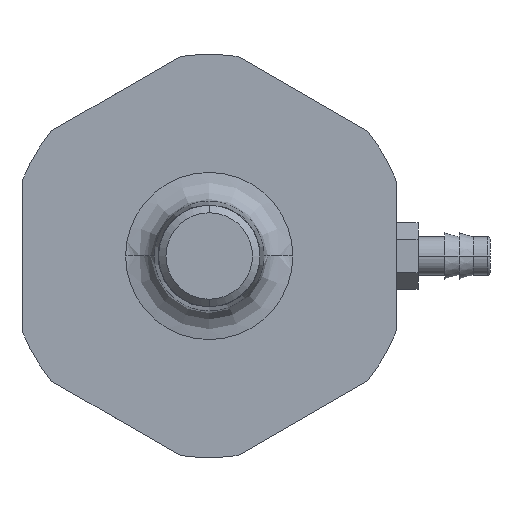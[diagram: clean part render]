
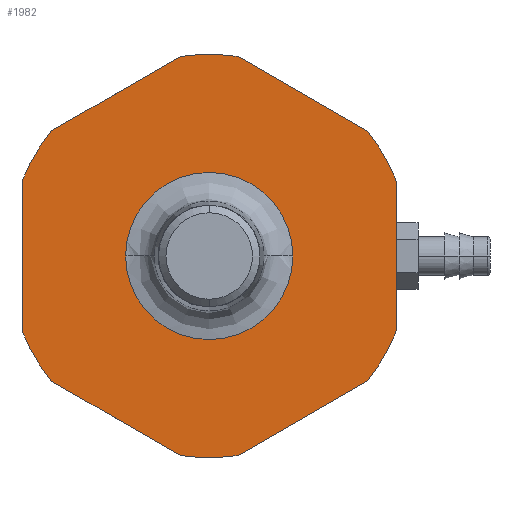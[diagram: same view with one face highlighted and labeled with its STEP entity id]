
A CAD part, left-side view. The second image highlights one B-rep face of the part: STEP entity #1982.
In plain terms, the highlighted planar face has unit normal (-1, 0, 0).
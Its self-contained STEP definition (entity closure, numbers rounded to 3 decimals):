
#1375=CARTESIAN_POINT('',(-3.375,0.363,0.));
#1376=VERTEX_POINT('',#1375);
#1386=CARTESIAN_POINT('',(-3.375,-0.363,0.));
#1387=VERTEX_POINT('',#1386);
#1388=CARTESIAN_POINT('',(-3.375,0.,0.0));
#1389=DIRECTION('',(-1.0,0.0,0.0));
#1390=DIRECTION('',(0.0,0.0,1.0));
#1391=AXIS2_PLACEMENT_3D('',#1388,#1389,#1390);
#1392=CIRCLE('',#1391,0.363);
#1393=EDGE_CURVE('',#1376,#1387,#1392,.T.);
#1460=CARTESIAN_POINT('',(-3.375,-0.687,-0.541));
#1461=VERTEX_POINT('',#1460);
#1468=CARTESIAN_POINT('',(-3.375,-0.125,-0.866));
#1469=VERTEX_POINT('',#1468);
#1470=CARTESIAN_POINT('',(-3.375,-0.687,-0.541));
#1471=DIRECTION('',(0.0,0.866,-0.5));
#1472=VECTOR('',#1471,0.65);
#1473=LINE('',#1470,#1472);
#1474=EDGE_CURVE('',#1461,#1469,#1473,.T.);
#1499=CARTESIAN_POINT('',(-3.375,-0.812,-0.325));
#1500=VERTEX_POINT('',#1499);
#1507=CARTESIAN_POINT('',(-3.375,0.,0.0));
#1508=DIRECTION('',(1.0,0.0,0.0));
#1509=DIRECTION('',(0.0,-0.866,-0.5));
#1510=AXIS2_PLACEMENT_3D('',#1507,#1508,#1509);
#1511=CIRCLE('',#1510,0.875);
#1512=EDGE_CURVE('',#1500,#1461,#1511,.T.);
#1531=CARTESIAN_POINT('',(-3.375,-0.812,0.325));
#1532=VERTEX_POINT('',#1531);
#1539=CARTESIAN_POINT('',(-3.375,-0.812,0.325));
#1540=DIRECTION('',(0.0,0.0,-1.0));
#1541=VECTOR('',#1540,0.65);
#1542=LINE('',#1539,#1541);
#1543=EDGE_CURVE('',#1532,#1500,#1542,.T.);
#1563=CARTESIAN_POINT('',(-3.375,-0.687,0.541));
#1564=VERTEX_POINT('',#1563);
#1571=CARTESIAN_POINT('',(-3.375,0.,0.0));
#1572=DIRECTION('',(1.0,0.0,0.0));
#1573=DIRECTION('',(0.0,-0.866,0.5));
#1574=AXIS2_PLACEMENT_3D('',#1571,#1572,#1573);
#1575=CIRCLE('',#1574,0.875);
#1576=EDGE_CURVE('',#1564,#1532,#1575,.T.);
#1595=CARTESIAN_POINT('',(-3.375,-0.125,0.866));
#1596=VERTEX_POINT('',#1595);
#1603=CARTESIAN_POINT('',(-3.375,-0.125,0.866));
#1604=DIRECTION('',(0.0,-0.866,-0.5));
#1605=VECTOR('',#1604,0.65);
#1606=LINE('',#1603,#1605);
#1607=EDGE_CURVE('',#1596,#1564,#1606,.T.);
#1627=CARTESIAN_POINT('',(-3.375,0.125,0.866));
#1628=VERTEX_POINT('',#1627);
#1635=CARTESIAN_POINT('',(-3.375,0.,0.));
#1636=DIRECTION('',(1.0,0.0,0.0));
#1637=DIRECTION('',(0.0,0.0,1.0));
#1638=AXIS2_PLACEMENT_3D('',#1635,#1636,#1637);
#1639=CIRCLE('',#1638,0.875);
#1640=EDGE_CURVE('',#1628,#1596,#1639,.T.);
#1659=CARTESIAN_POINT('',(-3.375,0.688,0.541));
#1660=VERTEX_POINT('',#1659);
#1667=CARTESIAN_POINT('',(-3.375,0.688,0.541));
#1668=DIRECTION('',(0.0,-0.866,0.5));
#1669=VECTOR('',#1668,0.65);
#1670=LINE('',#1667,#1669);
#1671=EDGE_CURVE('',#1660,#1628,#1670,.T.);
#1691=CARTESIAN_POINT('',(-3.375,0.813,0.325));
#1692=VERTEX_POINT('',#1691);
#1699=CARTESIAN_POINT('',(-3.375,0.,0.));
#1700=DIRECTION('',(1.0,0.0,0.0));
#1701=DIRECTION('',(0.0,0.866,0.5));
#1702=AXIS2_PLACEMENT_3D('',#1699,#1700,#1701);
#1703=CIRCLE('',#1702,0.875);
#1704=EDGE_CURVE('',#1692,#1660,#1703,.T.);
#1723=CARTESIAN_POINT('',(-3.375,0.813,-0.325));
#1724=VERTEX_POINT('',#1723);
#1731=CARTESIAN_POINT('',(-3.375,0.813,-0.325));
#1732=DIRECTION('',(0.0,0.0,1.0));
#1733=VECTOR('',#1732,0.65);
#1734=LINE('',#1731,#1733);
#1735=EDGE_CURVE('',#1724,#1692,#1734,.T.);
#1755=CARTESIAN_POINT('',(-3.375,0.688,-0.541));
#1756=VERTEX_POINT('',#1755);
#1763=CARTESIAN_POINT('',(-3.375,0.0,0.0));
#1764=DIRECTION('',(1.0,0.0,0.0));
#1765=DIRECTION('',(0.0,0.866,-0.5));
#1766=AXIS2_PLACEMENT_3D('',#1763,#1764,#1765);
#1767=CIRCLE('',#1766,0.875);
#1768=EDGE_CURVE('',#1756,#1724,#1767,.T.);
#1787=CARTESIAN_POINT('',(-3.375,0.125,-0.866));
#1788=VERTEX_POINT('',#1787);
#1795=CARTESIAN_POINT('',(-3.375,0.125,-0.866));
#1796=DIRECTION('',(0.0,0.866,0.5));
#1797=VECTOR('',#1796,0.65);
#1798=LINE('',#1795,#1797);
#1799=EDGE_CURVE('',#1788,#1756,#1798,.T.);
#1818=CARTESIAN_POINT('',(-3.375,0.,0.));
#1819=DIRECTION('',(1.0,0.0,0.0));
#1820=DIRECTION('',(0.0,0.0,-1.0));
#1821=AXIS2_PLACEMENT_3D('',#1818,#1819,#1820);
#1822=CIRCLE('',#1821,0.875);
#1823=EDGE_CURVE('',#1469,#1788,#1822,.T.);
#1926=CARTESIAN_POINT('',(-3.375,0.,0.363));
#1927=VERTEX_POINT('',#1926);
#1928=CARTESIAN_POINT('',(-3.375,0.,0.0));
#1929=DIRECTION('',(-1.0,0.0,0.0));
#1930=DIRECTION('',(0.0,0.0,1.0));
#1931=AXIS2_PLACEMENT_3D('',#1928,#1929,#1930);
#1932=CIRCLE('',#1931,0.363);
#1933=EDGE_CURVE('',#1387,#1927,#1932,.T.);
#1935=CARTESIAN_POINT('',(-3.375,0.,0.0));
#1936=DIRECTION('',(-1.0,0.0,0.0));
#1937=DIRECTION('',(0.0,0.0,1.0));
#1938=AXIS2_PLACEMENT_3D('',#1935,#1936,#1937);
#1939=CIRCLE('',#1938,0.363);
#1940=EDGE_CURVE('',#1927,#1376,#1939,.T.);
#1958=CARTESIAN_POINT('',(-3.375,0.,0.0));
#1959=DIRECTION('',(-1.0,0.0,0.0));
#1960=DIRECTION('',(0.0,0.0,1.0));
#1961=AXIS2_PLACEMENT_3D('',#1958,#1959,#1960);
#1962=PLANE('',#1961);
#1963=ORIENTED_EDGE('',*,*,#1823,.F.);
#1964=ORIENTED_EDGE('',*,*,#1474,.F.);
#1965=ORIENTED_EDGE('',*,*,#1512,.F.);
#1966=ORIENTED_EDGE('',*,*,#1543,.F.);
#1967=ORIENTED_EDGE('',*,*,#1576,.F.);
#1968=ORIENTED_EDGE('',*,*,#1607,.F.);
#1969=ORIENTED_EDGE('',*,*,#1640,.F.);
#1970=ORIENTED_EDGE('',*,*,#1671,.F.);
#1971=ORIENTED_EDGE('',*,*,#1704,.F.);
#1972=ORIENTED_EDGE('',*,*,#1735,.F.);
#1973=ORIENTED_EDGE('',*,*,#1768,.F.);
#1974=ORIENTED_EDGE('',*,*,#1799,.F.);
#1975=EDGE_LOOP('',(#1963,#1964,#1965,#1966,#1967,#1968,#1969,#1970,#1971,#1972,#1973,#1974));
#1976=FACE_OUTER_BOUND('',#1975,.T.);
#1977=ORIENTED_EDGE('',*,*,#1940,.F.);
#1978=ORIENTED_EDGE('',*,*,#1933,.F.);
#1979=ORIENTED_EDGE('',*,*,#1393,.F.);
#1980=EDGE_LOOP('',(#1977,#1978,#1979));
#1981=FACE_BOUND('',#1980,.T.);
#1982=ADVANCED_FACE('',(#1976,#1981),#1962,.T.);
